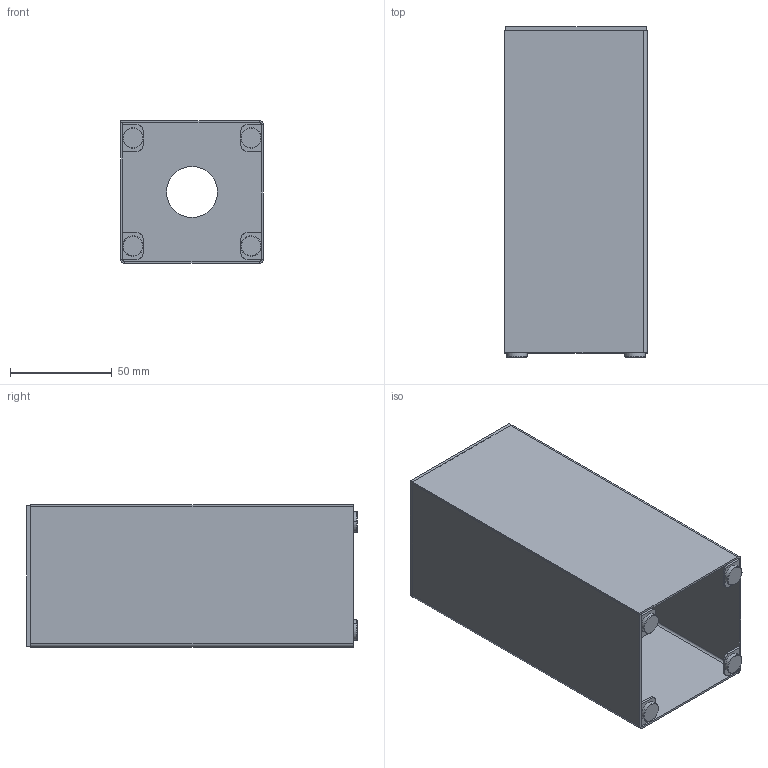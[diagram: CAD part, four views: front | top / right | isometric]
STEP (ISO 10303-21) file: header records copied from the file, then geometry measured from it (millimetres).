
FILE_DESCRIPTION (( 'STEP AP214' ), '1' );
FILE_NAME ('Dozownik do myd³a FRIEGO.STEP', '2023-09-06T09:42:25', ( '' ), ( '' ), 'SwSTEP 2.0', 'SolidWorks 2021', '' );
FILE_SCHEMA (( 'AUTOMOTIVE_DESIGN' ));
Length unit declared in the file: millimetre
Products named in the file (5): 06-003-0160-S-00-03; 06-003-0160-S-00-01; Dozownik do myd³a FRIEGO; stopka gumowa 10mm_7mm; 06-003-0160-S-00-02
Assembly tree (10 placements, depth 2):
  Dozownik do myd³a FRIEGO
    06-003-0160-S-00-01
    06-003-0160-S-00-02
    06-003-0160-S-00-03  x4
    stopka gumowa 10mm_7mm  x4
Bounding box: 70 x 162 x 70 mm (x, y, z)
Volume: 53121.7 mm3; surface area: 98709.8 mm2
Topology: 10 solids, 10 shells, 114 faces, 238 edges, 148 vertices
Faces by surface type: plane 66, cylinder 40, torus 8
Entity records: 1734 total; most frequent: DIRECTION 294, CARTESIAN_POINT 258, ORIENTED_EDGE 236, EDGE_CURVE 118, AXIS2_PLACEMENT_3D 106, LINE 82, VECTOR 82, VERTEX_POINT 70
